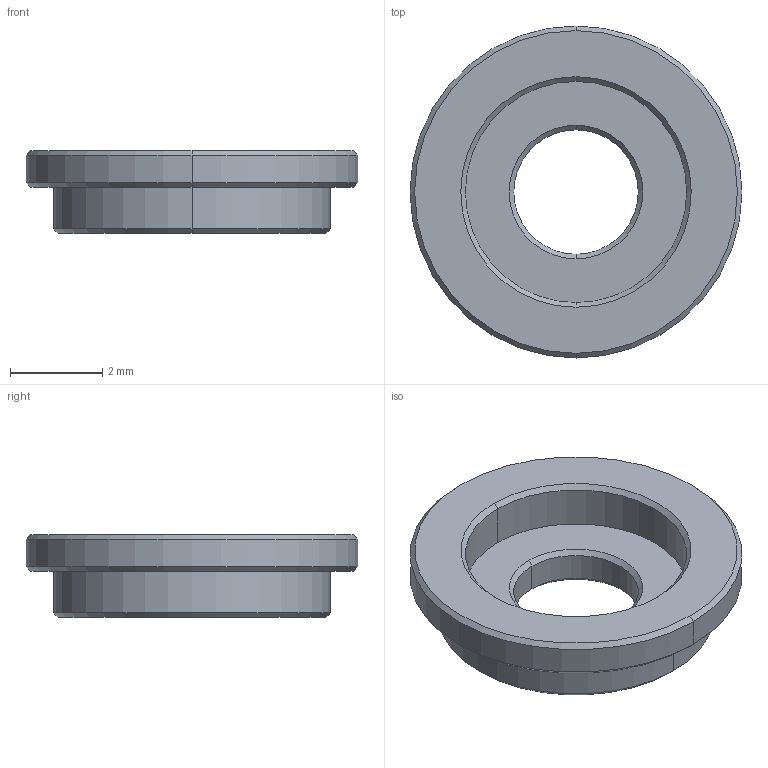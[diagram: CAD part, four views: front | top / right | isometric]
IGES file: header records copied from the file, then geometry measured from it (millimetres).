
Start section:  PTC IGES file: rx28_cap_bearing.igs
Global section: file name: rx28_cap_bearing.igs; native system: Pro/ENGINEER by Parametric Technology Corporation; preprocessor: 2006170; author: bono; organization: Unknown; date: 20061227.145640; units: millimetre
Bounding box: 7.2 x 7.2 x 1.8 mm (x, y, z)
Surface area: 123.2 mm2 (no closed solid volume)
Topology: 0 solids, 0 shells, 24 faces, 96 edges, 96 vertices
Faces by surface type: revolution 20, bspline 4
